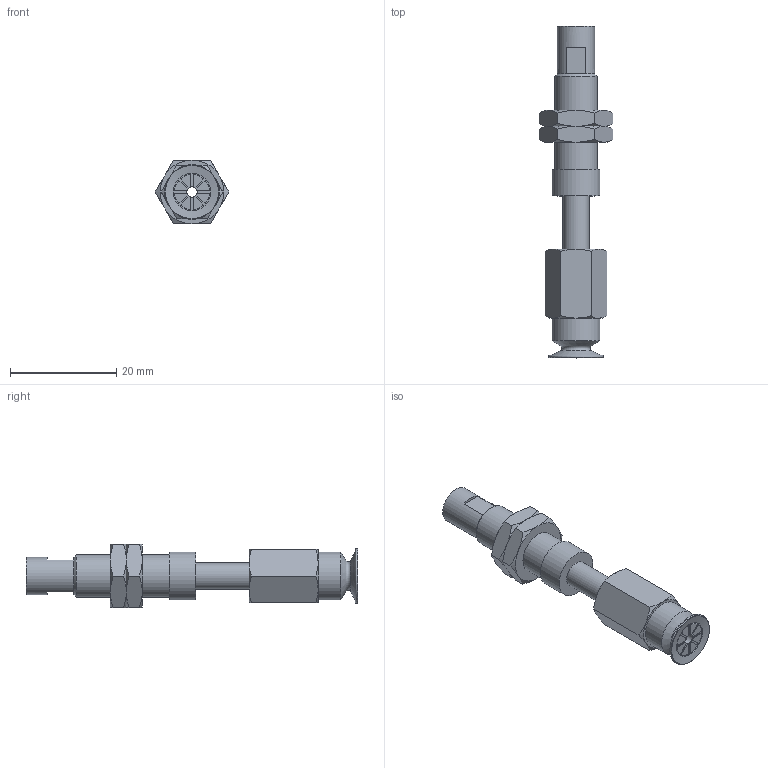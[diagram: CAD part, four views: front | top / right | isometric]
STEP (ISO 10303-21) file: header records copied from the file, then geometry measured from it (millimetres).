
FILE_DESCRIPTION(('STEP AP203'),'1');
FILE_NAME('.stp','2025-08-26T08:42:02',(' '),(' '),'Spatial InterOp 3D',' ',' ');
FILE_SCHEMA(('CONFIG_CONTROL_DESIGN'));
Length unit declared in the file: millimetre
Products named in the file (6): BNABPATS-10B-10-※; ADAPTER; NAPATS-10A-10--M; NAPATS-10A-10--F; Nut-10A-S; BPAG-10B-※_3D
Assembly tree (6 placements, depth 2):
  BNABPATS-10B-10-※
    ADAPTER
    NAPATS-10A-10--M
    NAPATS-10A-10--F
    Nut-10A-S  x2
    BPAG-10B-※_3D
Bounding box: 13.86 x 62.5 x 12 mm (x, y, z)
Volume: 3521.3 mm3; surface area: 4104.6 mm2
Topology: 6 solids, 6 shells, 147 faces, 334 edges, 206 vertices
Faces by surface type: plane 65, cone 46, cylinder 25, torus 11
Full cylindrical faces by diameter (mm): 2 x3, 4 x2, 4.134 x1, 5 x2, 6 x2, 7 x2, 7.188 x2, 8 x1, 9 x2
Entity records: 3762 total; most frequent: CARTESIAN_POINT 831, DIRECTION 564, ORIENTED_EDGE 484, EDGE_CURVE 242, AXIS2_PLACEMENT_3D 239, EDGE_LOOP 176, VERTEX_POINT 170, FACE_OUTER_BOUND 151
